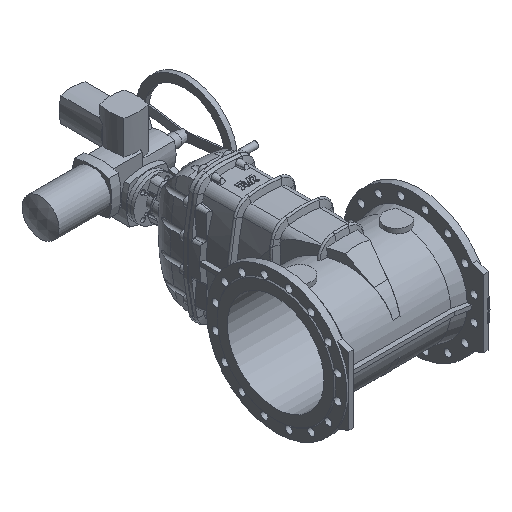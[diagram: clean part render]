
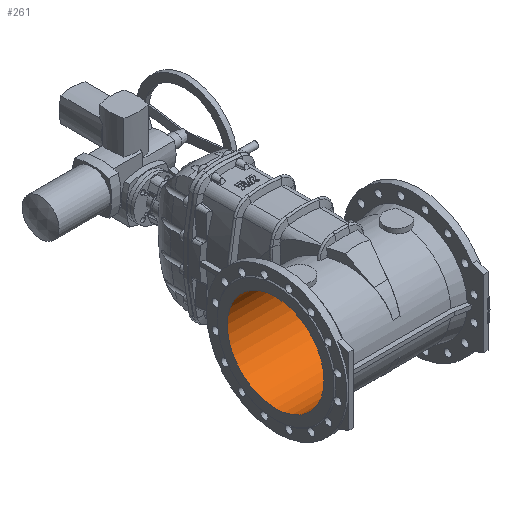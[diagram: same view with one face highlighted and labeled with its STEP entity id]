
A CAD part, isometric view. The second image highlights one B-rep face of the part: STEP entity #261.
In plain terms, the highlighted cylindrical face has radius 200 mm (diameter 400 mm), a full revolution.
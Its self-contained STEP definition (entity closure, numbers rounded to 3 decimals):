
#261 = ADVANCED_FACE ( 'NONE', ( #11570, #11578 ), #11583, .F. ) ;
#850 = EDGE_CURVE ( 'NONE', #14462, #14462, #2767, .T. ) ;
#2767 = CIRCLE ( 'NONE', #9018, 200. ) ;
#3790 = EDGE_LOOP ( 'NONE', ( #10322 ) ) ;
#3795 = EDGE_LOOP ( 'NONE', ( #10318 ) ) ;
#4968 = DIRECTION ( 'NONE',  ( 0., 0., -1. ) ) ;
#4969 = CARTESIAN_POINT ( 'NONE',  ( -865.685, 0., 0. ) ) ;
#4970 = DIRECTION ( 'NONE',  ( 1., 0., 0. ) ) ;
#6445 = EDGE_CURVE ( 'NONE', #14496, #14496, #14036, .T. ) ;
#8041 = AXIS2_PLACEMENT_3D ( 'NONE', #4969, #4970, #4968 ) ;
#9018 = AXIS2_PLACEMENT_3D ( 'NONE', #9596, #9597, #9598 ) ;
#9596 = CARTESIAN_POINT ( 'NONE',  ( 300., 0., 0. ) ) ;
#9597 = DIRECTION ( 'NONE',  ( 1., 0., 0. ) ) ;
#9598 = DIRECTION ( 'NONE',  ( 0., 0., -1. ) ) ;
#10318 = ORIENTED_EDGE ( 'NONE', *, *, #850, .T. ) ;
#10322 = ORIENTED_EDGE ( 'NONE', *, *, #6445, .F. ) ;
#11570 = FACE_OUTER_BOUND ( 'NONE', #3795, .T. ) ;
#11578 = FACE_OUTER_BOUND ( 'NONE', #3790, .T. ) ;
#11583 = CYLINDRICAL_SURFACE ( 'NONE', #8041, 200. ) ;
#14036 = CIRCLE ( 'NONE', #20101, 200. ) ;
#14462 = VERTEX_POINT ( 'NONE', #18110 ) ;
#14496 = VERTEX_POINT ( 'NONE', #18144 ) ;
#14620 = CARTESIAN_POINT ( 'NONE',  ( -300., 0., 0. ) ) ;
#14621 = DIRECTION ( 'NONE',  ( 1., 0., 0. ) ) ;
#14622 = DIRECTION ( 'NONE',  ( 0., 0., 1. ) ) ;
#18110 = CARTESIAN_POINT ( 'NONE',  ( 300., 0., -200. ) ) ;
#18144 = CARTESIAN_POINT ( 'NONE',  ( -300., 0., 200. ) ) ;
#20101 = AXIS2_PLACEMENT_3D ( 'NONE', #14620, #14621, #14622 ) ;
